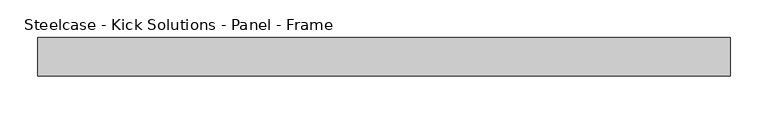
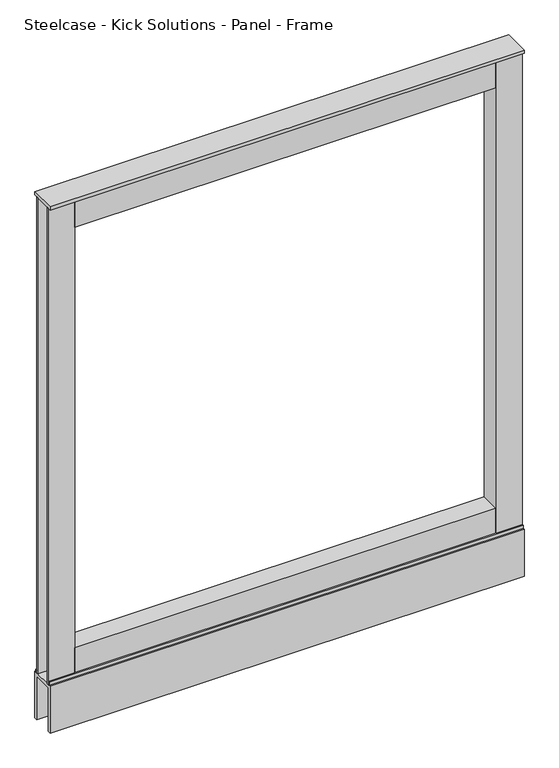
"""IFC4 building model written with IfcOpenShell, lengths in millimetres: furniture geometry, Steelcase - Kick Solutions - Panel - Frame : 42H x 36W."""

from ifc_helpers import new_model, si_unit, frame, origin, place, context, project, spatial, polyline, outline, extrude, source, transform, mapped, element, save


def steelcase_kick_solutions_panel_frame_1844c0bc(model_context):
    return source(origin(), model_context, "Body", "SweptSolid", [
        extrude(outline(polyline([(50.8006646, 6.3506854), (50.8006646, -31.7493123), (0.0, -31.7493123), (0.0, -29.2093123), (48.2606646, -29.2093123), (48.2606646, 3.8106854), (0.0, 3.8106854), (0.0, 6.3506854), (50.8006646, 6.3506854)])), frame((0.0, 0.0, 95.25), z_axis=(0.0, 0.0, 1.0), x_axis=(1.0, 0.0, 0.0)), (0.0, 0.0, 1.0), 971.55),
        extrude(outline(polyline([(863.6006661, 6.3506854), (914.4, 6.3506854), (914.4, 3.8106854), (866.1393354, 3.8106854), (866.1393354, -29.2093123), (914.4, -29.2093123), (914.4, -31.7493123), (863.6006661, -31.7493123), (863.6006661, 6.3506854)])), frame((0.0, 0.0, 95.25), z_axis=(0.0, 0.0, 1.0), x_axis=(1.0, 0.0, 0.0)), (0.0, 0.0, 1.0), 971.55),
        extrude(outline(polyline([(6.3506854, 101.600003), (9.5256855, 101.600003), (9.5256855, 95.25), (8.409661, 95.25), (8.409661, 100.2902081), (6.3506854, 100.2902081), (6.3506854, 101.600003)])), frame((0.0, 0.0, 0.0), z_axis=(1.0, 0.0, 0.0), x_axis=(0.0, 1.0, 0.0)), (0.0, 0.0, 1.0), 914.4),
        extrude(outline(polyline([(-34.9243138, 101.600003), (-31.7493123, 101.600003), (-31.7493123, 100.2902081), (-33.8479845, 100.2902081), (-33.8479845, 95.25), (-34.9243138, 95.25), (-34.9243138, 101.600003)])), frame((0.0, 0.0, 0.0), z_axis=(1.0, 0.0, 0.0), x_axis=(0.0, 1.0, 0.0)), (0.0, 0.0, 1.0), 914.4),
        extrude(outline(polyline([(863.6006661, -31.7493123), (50.8006646, -31.7493123), (50.8006646, 6.3506854), (863.6006661, 6.3506854), (863.6006661, -31.7493123)])), frame((0.0, 0.0, 1009.6500242), z_axis=(0.0, 0.0, 1.0), x_axis=(1.0, 0.0, 0.0)), (0.0, 0.0, 1.0), 57.1499758),
        extrude(outline(polyline([(863.6006661, -31.7493123), (50.8006646, -31.7493123), (50.8006646, 6.3506854), (863.6006661, 6.3506854), (863.6006661, -31.7493123)])), frame((0.0, 0.0, 95.25), z_axis=(0.0, 0.0, 1.0), x_axis=(1.0, 0.0, 0.0)), (0.0, 0.0, 1.0), 57.15),
        extrude(outline(polyline([(914.4, 12.7000004), (914.4, -38.1000011), (0.0, -38.1000011), (0.0, 12.7000004), (914.4, 12.7000004)])), frame((0.0, 0.0, 1066.8), z_axis=(0.0, 0.0, 1.0), x_axis=(1.0, 0.0, 0.0)), (0.0, 0.0, 1.0), 6.35),
        extrude(outline(polyline([(-38.1000011, 95.25), (12.7000004, 95.25), (12.7000004, 0.0), (6.3506854, 0.0), (6.3506854, 88.9), (-31.7493123, 88.9), (-31.7493123, 0.0), (-38.1000011, 0.0), (-38.1000011, 95.25)])), frame((0.0, 0.0, 0.0), z_axis=(1.0, 0.0, 0.0), x_axis=(0.0, 1.0, 0.0)), (0.0, 0.0, 1.0), 914.4),
    ])


if __name__ == "__main__":
    model = new_model("IFC4")
    model_context = context("Model", 3, world=origin())
    ifc_project = project(units=[si_unit("LENGTHUNIT", "METRE", prefix="MILLI")], contexts=[model_context])
    site = spatial("IfcSite", under=ifc_project)
    building = spatial("IfcBuilding", under=site)
    placement = place(None, origin())
    steelcase_kick_solutions_panel_frame_shape = steelcase_kick_solutions_panel_frame_1844c0bc(model_context)
    element("IfcFurniture", 1, ObjectType="Steelcase - Kick Solutions - Panel - Frame : 42H x 36W", at=placement, inside=building, context=model_context, shape_type="MappedRepresentation", body=[
        mapped(steelcase_kick_solutions_panel_frame_shape, transform((0.0, 0.0, 0.0), x_axis=(1.0, 0.0, 0.0), y_axis=(0.0, 1.0, 0.0), z_axis=(0.0, 0.0, 1.0))),
    ])
    save(model, "model.ifc")
